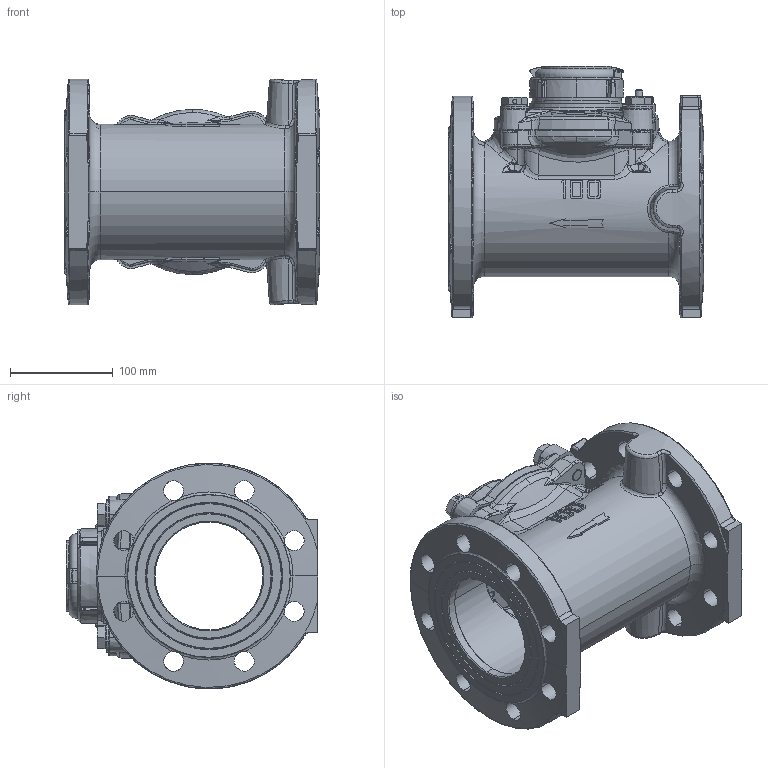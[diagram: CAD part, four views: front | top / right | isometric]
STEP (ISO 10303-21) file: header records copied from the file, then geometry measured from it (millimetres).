
FILE_DESCRIPTION (( 'STEP AP203' ), '1' );
FILE_NAME ('13341009-00,WTII 4 ISO m3 EEC.STEP', '2011-05-16T06:26:56', ( 'àøã-ãìéä áò"î' ), ( '' ), 'SwSTEP 2.0', 'SolidWorks 2011', '' );
FILE_SCHEMA (( 'CONFIG_CONTROL_DESIGN' ));
Products named in the file (11): 32240355-20,Body WT 4''''(3 22 403 09 -20); 13341009-00,WTII 4 ISO m3 EEC; a,25820329-04,Register cover 19 with plastic lid ARAD; p,26710709-07,Lid pin; 27630309-06,Plastic lid ARAD_hor; 25820309-18,Register cover 19; FLAT WASHERS DIN 125 A (ISO 7089)(M14 ( 2 30 266 09 ))-3; 21082110-02,Hex cap screw M14x35 drilled(21082120)-3; Hex cap screws MxL DIN 933(M14x40(21082119 -00))-3; 25222255-11,Cover WT_WST 2''''-4''''(2 52 222 09 -11)-3; 21082009-21,Regulator cap screw WT-3
Assembly tree (15 placements, depth 3):
  13341009-00,WTII 4 ISO m3 EEC
    FLAT WASHERS DIN 125 A (ISO 7089)(M14 ( 2 30 266 09 ))-3  x4
    21082110-02,Hex cap screw M14x35 drilled(21082120)-3
    Hex cap screws MxL DIN 933(M14x40(21082119 -00))-3  x3
    32240355-20,Body WT 4''''(3 22 403 09 -20)
    25222255-11,Cover WT_WST 2''''-4''''(2 52 222 09 -11)-3
    21082009-21,Regulator cap screw WT-3
    a,25820329-04,Register cover 19 with plastic lid ARAD
      p,26710709-07,Lid pin
      25820309-18,Register cover 19
      27630309-06,Plastic lid ARAD_hor
Bounding box: 249 x 245 x 220 mm (x, y, z)
Volume: 2503681 mm3; surface area: 473337.5 mm2
Topology: 14 solids, 14 shells, 1623 faces, 3956 edges, 2335 vertices
Faces by surface type: plane 522, cylinder 398, bspline 380, cone 185, torus 114, sphere 24
Entity records: 65123 total; most frequent: CARTESIAN_POINT 31337, ORIENTED_EDGE 7492, DIRECTION 5853, EDGE_CURVE 3746, AXIS2_PLACEMENT_3D 2337, VERTEX_POINT 2247, EDGE_LOOP 1669, ADVANCED_FACE 1551
